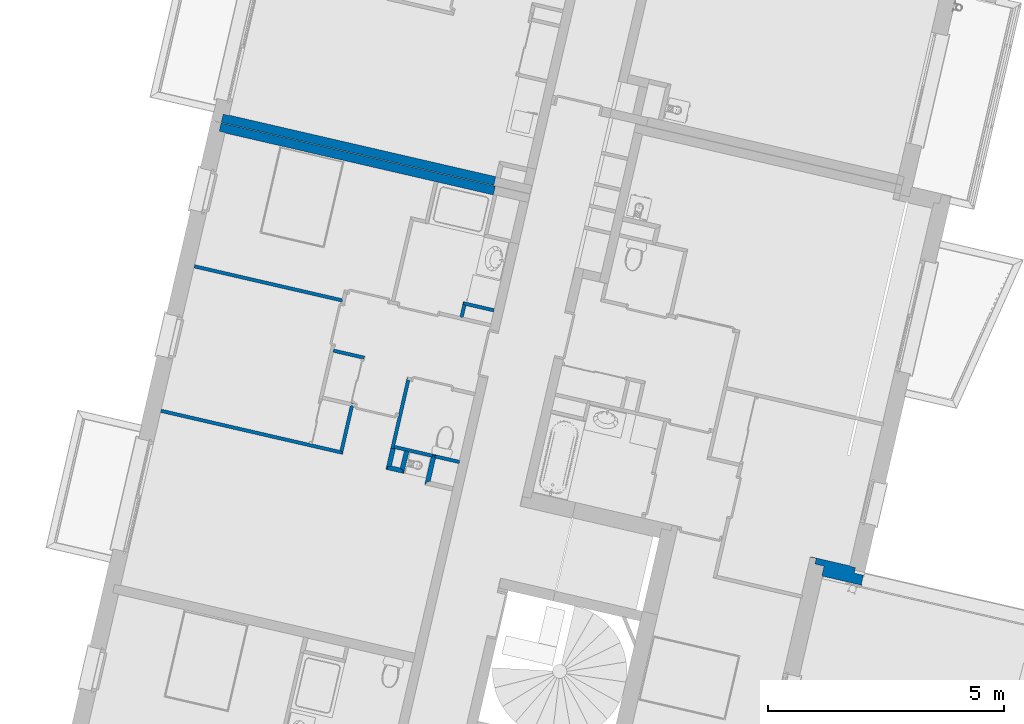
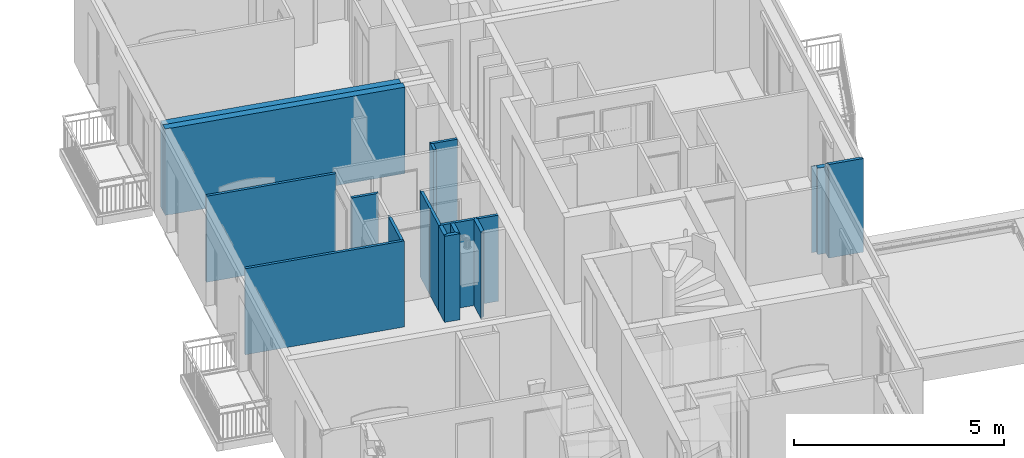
# One storey, part 48 of 90: 16 walls.
"""IFC2X3 building model written with IfcOpenShell, lengths in metres."""

from ifc_helpers import new_model, entity, si_unit, converted_unit, derived_unit, money_unit, direction, frame, origin_with_axes, place, context, subcontext, project, spatial, faceted_brep, material, material_list, type_object, element, save


model = new_model("IFC2X3")

# Units and contexts
model_context = context("Model", 3, precision=1e-05, world=origin_with_axes(), true_north=direction((0.0, 1.0)))
body_context = subcontext(model_context, "Body", "Model", "MODEL_VIEW")
ifc_project = project(units=[si_unit("LENGTHUNIT", "METRE"), si_unit("AREAUNIT", "SQUARE_METRE"), si_unit("VOLUMEUNIT", "CUBIC_METRE"), converted_unit("PLANEANGLEUNIT", "DEGREE", entity("IfcPlaneAngleMeasure", 0.0174532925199), si_unit("PLANEANGLEUNIT", "RADIAN"), dimensions=[0, 0, 0, 0, 0, 0, 0]), si_unit("SOLIDANGLEUNIT", "STERADIAN"), money_unit("EUR"), converted_unit("TIMEUNIT", "Year", entity("IfcTimeMeasure", 31556926.0), si_unit("TIMEUNIT", "SECOND"), dimensions=[0, 0, 1, 0, 0, 0, 0]), si_unit("MASSUNIT", "GRAM", prefix="KILO"), si_unit("THERMODYNAMICTEMPERATUREUNIT", "DEGREE_CELSIUS"), si_unit("LUMINOUSINTENSITYUNIT", "LUMEN"), si_unit("ENERGYUNIT", "JOULE", prefix="MEGA"), derived_unit("THERMALCONDUCTANCEUNIT", [(si_unit("POWERUNIT", "WATT"), 1), (si_unit("LENGTHUNIT", "METRE"), -1), (si_unit("THERMODYNAMICTEMPERATUREUNIT", "KELVIN"), -1)]), derived_unit("SPECIFICHEATCAPACITYUNIT", [(si_unit("ENERGYUNIT", "JOULE"), 1), (si_unit("MASSUNIT", "GRAM", prefix="KILO"), -1), (si_unit("THERMODYNAMICTEMPERATUREUNIT", "KELVIN"), -1)]), derived_unit("MASSDENSITYUNIT", [(si_unit("MASSUNIT", "GRAM", prefix="KILO"), 1), (si_unit("VOLUMEUNIT", "CUBIC_METRE"), -1)])], contexts=[model_context])

# Site, building, storey
site_placement = place(None, origin_with_axes())
site = spatial("IfcSite", under=ifc_project, at=site_placement, Name="Site", CompositionType="ELEMENT")
building_placement = place(site_placement, origin_with_axes())
building = spatial("IfcBuilding", under=site, at=building_placement, Name="Bâtiment", CompositionType="ELEMENT")
storey_placement = place(building_placement, frame((0.0, 0.0, 2.72), z_axis=(0.0, 0.0, 1.0), x_axis=(1.0, 0.0, 0.0)))
storey = spatial("IfcBuildingStorey", under=building, at=storey_placement, Name="R+1", CompositionType="ELEMENT", Elevation=2.72)

# Walls
ifc_material_1 = material(Name="Finition ext - Crépis")
ifc_material_2 = material(Name="Béton cellulaire")
ifc_material_3 = material(Name="Mortier")
ifc_material_4 = material(Name="Isolation - Polystyrène expansé")
ifc_material_5 = material(Name="Bloc ELITHERM")
ifc_material_6 = material(Name="Isolation - Polystyrène extrudé")
ifc_material_7 = material(Name="Finition int - Plaque de plâtre")
ifc_material_list_1 = material_list([ifc_material_1, ifc_material_2, ifc_material_3, ifc_material_4, ifc_material_5, ifc_material_6, ifc_material_7])
wall_type_1 = type_object("IfcWallType", Name="Mur ALKERN + planelle 21 345 x 2720", PredefinedType="USERDEFINED")
wall_1_placement = place(storey_placement, frame((-3.12464067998, -5.86018187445, 0.0), z_axis=(0.0, 0.0, 1.0), x_axis=(-0.974387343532, 0.224876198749, 0.0)))
element("IfcWall", 1, at=wall_1_placement, inside=storey, type_object=wall_type_1, material=ifc_material_list_1, Name="Mue bloc ALKERN isolé", ObjectType="SOLIDWALL", context=body_context, shape_type="Brep", body=[
    faceted_brep([(0.855808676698, -0.0149999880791, 2.72), (6.98661306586e-09, -0.0149999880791, 2.72), (6.98661306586e-09, -0.0149999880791, 0.0), (0.855808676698, -0.0149999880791, 0.0), (0.855808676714, 0.0, 2.72), (7.00355373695e-09, 0.0, 2.72), (7.00355373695e-09, 0.0, 0.0), (0.855808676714, 0.0, 0.0)], [[[0, 1, 2, 3]], [[1, 0, 4, 5]], [[5, 6, 2, 1]], [[6, 7, 3, 2]], [[7, 4, 0, 3]], [[5, 4, 7, 6]]]),
    faceted_brep([(0.0149999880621, -0.015, 2.72), (0.0149999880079, -0.0629999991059, 2.72), (0.870808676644, -0.0629999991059, 2.72), (0.870808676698, -0.015, 2.72), (0.0149999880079, -0.0629999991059, 2.51999999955), (0.0149999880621, -0.015, 2.51999999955), (0.870808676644, -0.0629999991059, 2.51999999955), (0.870808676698, -0.015, 2.51999999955)], [[[0, 1, 2, 3]], [[4, 1, 0, 5]], [[1, 4, 6, 2]], [[3, 2, 6, 7]], [[5, 0, 3, 7]], [[4, 5, 7, 6]]]),
    faceted_brep([(0.0149999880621, -0.015, 2.51999999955), (0.0149999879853, -0.083, 2.51999999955), (0.870808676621, -0.083, 2.52), (0.870808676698, -0.015, 2.52), (0.0149999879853, -0.083, 2.50999999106), (0.0149999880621, -0.015, 2.50999999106), (0.870808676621, -0.083, 2.51), (0.870808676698, -0.015, 2.51)], [[[0, 1, 2, 3]], [[4, 1, 0, 5]], [[1, 4, 6, 2]], [[3, 2, 6, 7]], [[5, 0, 3, 7]], [[4, 5, 7, 6]]]),
    faceted_brep([(0.918808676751, -0.0630000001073, 2.72), (0.0629999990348, -0.0630000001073, 2.72), (0.0629999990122, -0.083000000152, 2.72), (0.918808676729, -0.083000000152, 2.72), (0.918808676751, -0.0630000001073, 2.51999999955), (0.0629999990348, -0.0630000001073, 2.51999999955), (0.0629999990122, -0.083000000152, 2.51999999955), (0.918808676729, -0.083000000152, 2.51999999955)], [[[0, 1, 2, 3]], [[4, 5, 1, 0]], [[5, 6, 2, 1]], [[3, 2, 6, 7]], [[4, 0, 3, 7]], [[7, 6, 5, 4]]]),
    faceted_brep([(0.0149999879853, -0.0829999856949, 2.50999999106), (0.0149999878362, -0.214999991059, 2.50999999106), (0.870808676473, -0.214999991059, 2.50999999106), (0.870808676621, -0.0829999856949, 2.50999999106), (0.0149999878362, -0.214999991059, 0.0), (0.0149999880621, -0.015, 2.50999999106), (0.0149999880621, -0.015, 0.0), (0.870808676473, -0.214999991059, 0.0), (0.870808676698, -0.015, 0.0), (0.870808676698, -0.015, 2.50999999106)], [[[0, 1, 2, 3]], [[4, 1, 0, 5, 6]], [[1, 4, 7, 2]], [[3, 2, 7, 8, 9]], [[5, 0, 3, 9]], [[6, 5, 9, 8]], [[4, 6, 8, 7]]]),
    faceted_brep([(1.07080868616, -0.215000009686, 2.51), (0.214999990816, -0.215000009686, 2.50999999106), (0.214999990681, -0.335000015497, 2.50999999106), (1.07080868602, -0.335000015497, 2.51), (1.07080868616, -0.215000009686, 0.0), (0.214999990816, -0.215000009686, 0.0), (0.214999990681, -0.335000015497, 0.0), (1.07080868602, -0.335000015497, 0.0)], [[[0, 1, 2, 3]], [[4, 5, 1, 0]], [[5, 6, 2, 1]], [[3, 2, 6, 7]], [[4, 0, 3, 7]], [[7, 6, 5, 4]]]),
    faceted_brep([(1.19080869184, -0.335000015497, 2.51), (0.335000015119, -0.335000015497, 2.51), (0.335000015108, -0.34499998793, 2.51), (1.19080869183, -0.34499998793, 2.51), (1.19080869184, -0.335000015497, 0.0), (0.335000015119, -0.335000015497, 0.0), (0.335000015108, -0.34499998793, 0.0), (1.19080869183, -0.34499998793, 0.0)], [[[0, 1, 2, 3]], [[4, 5, 1, 0]], [[5, 6, 2, 1]], [[3, 2, 6, 7]], [[4, 0, 3, 7]], [[7, 6, 5, 4]]]),
])
ifc_material_8 = material(Name="Isolation - Laine de roche")
ifc_material_list_2 = material_list([ifc_material_7, ifc_material_8, ifc_material_7])
wall_type_2 = type_object("IfcWallType", Name="3 - Cloison 72mm Placostil 74", PredefinedType="USERDEFINED")
wall_2_placement = place(storey_placement, frame((-12.2584688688, -3.14533732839, 0.0), z_axis=(0.0, 0.0, 1.0), x_axis=(-0.97438734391, 0.224876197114, 0.0)))
element("IfcWall", 2, at=wall_2_placement, inside=storey, type_object=wall_type_2, material=ifc_material_list_2, Name="Cloison Placostil 72/48", ObjectType="PARTITIONING", context=body_context, shape_type="Brep", body=[
    faceted_brep([(0.567947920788, -0.013, 0.0), (0.801000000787, -0.013, 0.0), (0.801000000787, -0.013, 2.5), (0.567947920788, -0.013, 2.5), (0.568109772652, 0.0, 0.0), (0.801000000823, 2.78449263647e-10, 0.0), (0.801000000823, 2.78449263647e-10, 2.5), (0.568109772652, 0.0, 2.5)], [[[0, 1, 2, 3]], [[4, 5, 1, 0]], [[5, 6, 2, 1]], [[3, 2, 6, 7]], [[4, 0, 3, 7]], [[7, 6, 5, 4]]]),
    faceted_brep([(0.0, -0.013, 0.0), (0.493942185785, -0.013, 0.0), (0.493942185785, -0.013, 2.5), (0.0, -0.013, 2.5), (0.0, 0.0, 0.0), (0.49410403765, 0.0, 0.0), (0.49410403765, 0.0, 2.5), (0.0, 0.0, 2.5)], [[[0, 1, 2, 3]], [[4, 5, 1, 0]], [[5, 6, 2, 1]], [[3, 2, 6, 7]], [[4, 0, 3, 7]], [[7, 6, 5, 4]]]),
    faceted_brep([(-0.0260000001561, -0.061, 0.0), (0.814000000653, -0.061, 0.0), (0.814000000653, -0.061, 2.5), (-0.0260000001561, -0.061, 2.5), (-0.0260000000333, -0.013, 0.0), (0.814000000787, -0.013, 0.0), (0.814000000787, -0.013, 2.5), (-0.0260000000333, -0.013, 2.5)], [[[0, 1, 2, 3]], [[4, 5, 1, 0]], [[5, 6, 2, 1]], [[3, 2, 6, 7]], [[4, 0, 3, 7]], [[7, 6, 5, 4]]]),
    faceted_brep([(-0.0740000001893, -0.074, 0.0), (0.801000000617, -0.074, 0.0), (0.801000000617, -0.074, 2.5), (-0.0740000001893, -0.074, 2.5), (-0.0740000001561, -0.061, 0.0), (0.801000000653, -0.061, 0.0), (0.801000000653, -0.061, 2.5), (-0.0740000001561, -0.061, 2.5)], [[[0, 1, 2, 3]], [[4, 5, 1, 0]], [[5, 6, 2, 1]], [[3, 2, 6, 7]], [[4, 0, 3, 7]], [[7, 6, 5, 4]]]),
])
wall_3_placement = place(storey_placement, frame((-12.7629494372, -1.44021904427, 0.0), z_axis=(0.0, 0.0, 1.0), x_axis=(-0.224876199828, -0.974387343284, 0.0)))
element("IfcWall", 3, at=wall_3_placement, inside=storey, type_object=wall_type_2, material=ifc_material_list_2, Name="Cloison Placostil 72/48", ObjectType="PARTITIONING", context=body_context, shape_type="Brep", body=[
    faceted_brep([(1.54800000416, 0.074, 0.0), (1.53500000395, 0.074, 0.0), (1.53500000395, 0.074, 2.5), (1.54800000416, 0.074, 2.5), (1.54800000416, 0.061, 0.0), (1.53500000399, 0.061, 0.0), (1.53500000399, 0.061, 2.5), (1.54800000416, 0.061, 2.5)], [[[0, 1, 2, 3]], [[4, 5, 1, 0]], [[5, 6, 2, 1]], [[3, 2, 6, 7]], [[3, 7, 4, 0]], [[7, 6, 5, 4]]]),
    faceted_brep([(0.0740000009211, 0.061, 2.5), (1.48700000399, 0.061, 2.5), (1.48700000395, 0.074, 2.5), (0.0740000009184, 0.074, 2.5), (0.0740000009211, 0.061, 0.0), (1.48700000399, 0.061, 0.0), (1.48700000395, 0.074, 0.0), (0.0740000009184, 0.074, 0.0)], [[[0, 1, 2, 3]], [[4, 5, 1, 0]], [[5, 6, 2, 1]], [[3, 2, 6, 7]], [[3, 7, 4, 0]], [[7, 6, 5, 4]]]),
    faceted_brep([(1.54800000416, 0.013, 0.0), (0.061000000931, 0.013, 0.0), (0.0610000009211, 0.061, 0.0), (1.54800000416, 0.061, 0.0), (1.54800000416, 0.013, 2.5), (0.061000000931, 0.013, 2.5), (0.0610000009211, 0.061, 2.5), (1.54800000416, 0.061, 2.5)], [[[0, 1, 2, 3]], [[4, 5, 1, 0]], [[6, 2, 1, 5]], [[3, 2, 6, 7]], [[7, 4, 0, 3]], [[7, 6, 5, 4]]]),
    faceted_brep([(1.54800000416, 0.0, 0.0), (0.859293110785, 0.0, 0.0), (0.859293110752, 0.013, 0.0), (1.54800000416, 0.013, 0.0), (1.54800000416, 0.0, 2.5), (0.859293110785, 0.0, 2.5), (0.859293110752, 0.013, 2.5), (1.54800000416, 0.013, 2.5)], [[[0, 1, 2, 3]], [[4, 5, 1, 0]], [[6, 2, 1, 5]], [[3, 2, 6, 7]], [[7, 4, 0, 3]], [[7, 6, 5, 4]]]),
    faceted_brep([(0.0130000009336, 0.0, 0.0), (0.013000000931, 0.013, 0.0), (0.811293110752, 0.013, 0.0), (0.811293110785, 0.0, 0.0), (0.0130000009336, 0.0, 2.5), (0.013000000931, 0.013, 2.5), (0.811293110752, 0.013, 2.5), (0.811293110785, 0.0, 2.5)], [[[0, 1, 2, 3]], [[1, 0, 4, 5]], [[1, 5, 6, 2]], [[7, 3, 2, 6]], [[4, 0, 3, 7]], [[5, 4, 7, 6]]]),
])
wall_4_placement = place(storey_placement, frame((-14.1354559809, -3.08704775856, 0.0), z_axis=(0.0, 0.0, 1.0), x_axis=(0.224876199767, 0.974387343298, 0.0)))
element("IfcWall", 4, at=wall_4_placement, inside=storey, type_object=wall_type_2, material=ifc_material_list_2, Name="Cloison Placostil 72/48", ObjectType="PARTITIONING", context=body_context, shape_type="Brep", body=[
    faceted_brep([(1.04099999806, 0.074, 0.0), (1.04099999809, 0.061, 0.0), (0.0739999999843, 0.061, 0.0), (0.0739999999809, 0.074, 0.0), (1.04099999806, 0.074, 2.5), (1.04099999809, 0.061, 2.5), (0.0739999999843, 0.061, 2.5), (0.0739999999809, 0.074, 2.5)], [[[0, 1, 2, 3]], [[1, 0, 4, 5]], [[1, 5, 6, 2]], [[7, 3, 2, 6]], [[4, 0, 3, 7]], [[5, 4, 7, 6]]]),
    faceted_brep([(1.05399999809, 0.061, 0.0), (1.05399999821, 0.013, 0.0), (0.0609999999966, 0.013, 0.0), (0.0609999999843, 0.061, 0.0), (1.05399999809, 0.061, 2.5), (1.05399999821, 0.013, 2.5), (0.0609999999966, 0.013, 2.5), (0.0609999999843, 0.061, 2.5)], [[[0, 1, 2, 3]], [[1, 0, 4, 5]], [[1, 5, 6, 2]], [[7, 3, 2, 6]], [[4, 0, 3, 7]], [[5, 4, 7, 6]]]),
    faceted_brep([(1.10199999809, 0.061, 0.0), (1.11499999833, 0.061, 0.0), (1.11499999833, 0.013, 0.0), (1.10199999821, 0.013, 0.0), (1.10199999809, 0.061, 2.5), (1.11499999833, 0.061, 2.5), (1.11499999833, 0.013, 2.5), (1.10199999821, 0.013, 2.5)], [[[0, 1, 2, 3]], [[4, 5, 1, 0]], [[2, 1, 5, 6]], [[3, 2, 6, 7]], [[4, 0, 3, 7]], [[7, 6, 5, 4]]]),
    faceted_brep([(1.04099999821, 0.013, 0.0), (1.04099999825, 0.0, 0.0), (0.013, 0.0, 0.0), (0.0129999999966, 0.013, 0.0), (1.04099999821, 0.013, 2.5), (1.04099999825, 0.0, 2.5), (0.013, 0.0, 2.5), (0.0129999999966, 0.013, 2.5)], [[[0, 1, 2, 3]], [[1, 0, 4, 5]], [[1, 5, 6, 2]], [[7, 3, 2, 6]], [[4, 0, 3, 7]], [[5, 4, 7, 6]]]),
])
wall_5_placement = place(storey_placement, frame((-11.4887028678, -3.32298952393, 0.0), z_axis=(0.0, 0.0, 1.0), x_axis=(-0.97438734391, 0.224876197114, 0.0)))
element("IfcWall", 5, at=wall_5_placement, inside=storey, type_object=wall_type_2, material=ifc_material_list_2, Name="Cloison Placostil 72/48", ObjectType="PARTITIONING", context=body_context, shape_type="Brep", body=[
    faceted_brep([(0.179999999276, -0.013, 0.0), (0.689999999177, -0.013, 0.0), (0.689999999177, -0.013, 2.5), (0.179999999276, -0.013, 2.5), (0.179999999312, 0.0, 0.0), (0.68999999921, 0.0, 0.0), (0.68999999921, 0.0, 2.5), (0.179999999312, 0.0, 2.5)], [[[0, 1, 2, 3]], [[4, 5, 1, 0]], [[5, 6, 2, 1]], [[3, 2, 6, 7]], [[0, 3, 7, 4]], [[7, 6, 5, 4]]]),
    faceted_brep([(0.179999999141, -0.061, 0.0), (0.715999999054, -0.061, 0.0), (0.715999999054, -0.061, 2.5), (0.179999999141, -0.061, 2.5), (0.179999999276, -0.013, 0.0), (0.715999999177, -0.013, 0.0), (0.715999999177, -0.013, 2.5), (0.179999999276, -0.013, 2.5)], [[[0, 1, 2, 3]], [[4, 5, 1, 0]], [[5, 6, 2, 1]], [[3, 2, 6, 7]], [[0, 3, 7, 4]], [[7, 6, 5, 4]]]),
    faceted_brep([(0.179999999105, -0.074, 0.0), (0.689999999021, -0.074, 0.0), (0.689999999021, -0.074, 2.5), (0.179999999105, -0.074, 2.5), (0.179999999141, -0.061, 0.0), (0.689999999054, -0.061, 0.0), (0.689999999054, -0.061, 2.5), (0.179999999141, -0.061, 2.5)], [[[0, 1, 2, 3]], [[4, 5, 1, 0]], [[5, 6, 2, 1]], [[3, 2, 6, 7]], [[0, 3, 7, 4]], [[7, 6, 5, 4]]]),
])
wall_6_placement = place(storey_placement, frame((-13.6544457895, -1.00283323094, 0.0), z_axis=(0.0, 0.0, 1.0), x_axis=(-0.974387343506, 0.224876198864, 0.0)))
element("IfcWall", 6, at=wall_6_placement, inside=storey, type_object=wall_type_2, material=ifc_material_list_2, Name="Cloison Placostil 72/48", ObjectType="PARTITIONING", context=body_context, shape_type="Brep", body=[
    faceted_brep([(0.674000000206, 0.074, 0.0), (0.674000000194, 0.061, 0.0), (0.0610000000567, 0.061, 0.0), (0.0610000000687, 0.074, 0.0), (0.674000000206, 0.074, 2.5), (0.674000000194, 0.061, 2.5), (0.0610000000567, 0.061, 2.5), (0.0610000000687, 0.074, 2.5)], [[[0, 1, 2, 3]], [[1, 0, 4, 5]], [[1, 5, 6, 2]], [[7, 3, 2, 6]], [[4, 0, 3, 7]], [[5, 4, 7, 6]]]),
    faceted_brep([(0.687000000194, 0.061, 0.0), (0.687000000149, 0.013, 0.0), (0.0130000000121, 0.013, 0.0), (0.0130000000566, 0.061, 0.0), (0.687000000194, 0.061, 2.5), (0.687000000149, 0.013, 2.5), (0.0130000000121, 0.013, 2.5), (0.0130000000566, 0.061, 2.5)], [[[0, 1, 2, 3]], [[1, 0, 4, 5]], [[1, 5, 6, 2]], [[7, 3, 2, 6]], [[4, 0, 3, 7]], [[5, 4, 7, 6]]]),
    faceted_brep([(0.674000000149, 0.013, 0.0), (0.674000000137, 0.0, 0.0), (0.0, 0.0, 0.0), (0.0, 0.013, 0.0), (0.674000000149, 0.013, 2.5), (0.674000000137, 0.0, 2.5), (0.0, 0.0, 2.5), (0.0, 0.013, 2.5)], [[[0, 1, 2, 3]], [[1, 0, 4, 5]], [[1, 5, 6, 2]], [[7, 3, 2, 6]], [[4, 0, 3, 7]], [[5, 4, 7, 6]]]),
])
wall_7_placement = place(storey_placement, frame((-11.5724314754, 0.156328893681, 0.0), z_axis=(0.0, 0.0, 1.0), x_axis=(-0.224876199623, -0.974387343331, 0.0)))
element("IfcWall", 7, at=wall_7_placement, inside=storey, type_object=wall_type_2, material=ifc_material_list_2, Name="Cloison Placostil 72/48", ObjectType="PARTITIONING", context=body_context, shape_type="Brep", body=[
    faceted_brep([(0.324000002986, 0.074, 0.0), (0.324000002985, 0.061, 0.0), (0.0739999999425, 0.061, 0.0), (0.0739999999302, 0.074, 0.0), (0.324000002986, 0.074, 2.5), (0.324000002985, 0.061, 2.5), (0.0739999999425, 0.061, 2.5), (0.0739999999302, 0.074, 2.5)], [[[0, 1, 2, 3]], [[1, 0, 4, 5]], [[1, 5, 6, 2]], [[7, 3, 2, 6]], [[4, 0, 3, 7]], [[5, 4, 7, 6]]]),
    faceted_brep([(0.337000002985, 0.061, 0.0), (0.337000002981, 0.013, 0.0), (0.0609999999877, 0.013, 0.0), (0.0609999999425, 0.061, 0.0), (0.337000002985, 0.061, 2.5), (0.337000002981, 0.013, 2.5), (0.0609999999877, 0.013, 2.5), (0.0609999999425, 0.061, 2.5)], [[[0, 1, 2, 3]], [[1, 0, 4, 5]], [[1, 5, 6, 2]], [[7, 3, 2, 6]], [[4, 0, 3, 7]], [[5, 4, 7, 6]]]),
    faceted_brep([(0.324000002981, 0.013, 0.0), (0.324000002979, 0.0, 0.0), (0.013, 0.0, 0.0), (0.0129999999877, 0.013, 0.0), (0.324000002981, 0.013, 2.5), (0.324000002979, 0.0, 2.5), (0.013, 0.0, 2.5), (0.0129999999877, 0.013, 2.5)], [[[0, 1, 2, 3]], [[1, 0, 4, 5]], [[1, 5, 6, 2]], [[7, 3, 2, 6]], [[4, 0, 3, 7]], [[5, 4, 7, 6]]]),
])
wall_8_placement = place(storey_placement, frame((-14.1354559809, -3.08704775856, 0.0), z_axis=(0.0, 0.0, 1.0), x_axis=(-0.974387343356, 0.224876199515, 0.0)))
element("IfcWall", 8, at=wall_8_placement, inside=storey, type_object=wall_type_2, material=ifc_material_list_2, Name="Cloison Placostil 72/48", ObjectType="PARTITIONING", context=body_context, shape_type="Brep", body=[
    faceted_brep([(0.0, -0.013, 2.5), (3.95828996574, -0.013, 2.5), (3.95828996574, 0.0, 2.5), (0.0, 0.0, 2.5), (0.0, -0.013, 0.0), (3.95828996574, -0.013, 0.0), (3.95828996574, 0.0, 0.0), (0.0, 0.0, 0.0)], [[[0, 1, 2, 3]], [[4, 5, 1, 0]], [[2, 1, 5, 6]], [[3, 2, 6, 7]], [[4, 0, 3, 7]], [[7, 6, 5, 4]]]),
    faceted_brep([(0.0129999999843, -0.061, 2.5), (3.95828996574, -0.061, 2.5), (3.95828996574, -0.013, 2.5), (0.0129999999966, -0.013, 2.5), (0.0129999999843, -0.061, 0.0), (3.95828996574, -0.061, 0.0), (3.95828996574, -0.013, 0.0), (0.0129999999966, -0.013, 0.0)], [[[0, 1, 2, 3]], [[4, 5, 1, 0]], [[2, 1, 5, 6]], [[3, 2, 6, 7]], [[4, 0, 3, 7]], [[7, 6, 5, 4]]]),
    faceted_brep([(0.735000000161, -0.074, 2.5), (3.95828996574, -0.074, 2.5), (3.95828996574, -0.061, 2.5), (0.735000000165, -0.061, 2.5), (0.735000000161, -0.074, 0.0), (3.95828996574, -0.074, 0.0), (3.95828996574, -0.061, 0.0), (0.735000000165, -0.061, 0.0)], [[[0, 1, 2, 3]], [[4, 5, 1, 0]], [[2, 1, 5, 6]], [[3, 2, 6, 7]], [[4, 0, 3, 7]], [[7, 6, 5, 4]]]),
    faceted_brep([(0.687000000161, -0.074, 2.5), (0.687000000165, -0.061, 2.5), (0.0609999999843, -0.061, 2.5), (0.0609999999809, -0.074, 2.5), (0.687000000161, -0.074, 0.0), (0.687000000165, -0.061, 0.0), (0.0609999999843, -0.061, 0.0), (0.0609999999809, -0.074, 0.0)], [[[0, 1, 2, 3]], [[1, 0, 4, 5]], [[1, 5, 6, 2]], [[7, 3, 2, 6]], [[4, 0, 3, 7]], [[5, 4, 7, 6]]]),
])
wall_9_placement = place(storey_placement, frame((-14.085182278, 0.127992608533, 0.0), z_axis=(0.0, 0.0, 1.0), x_axis=(-0.974387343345, 0.224876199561, 0.0)))
element("IfcWall", 9, at=wall_9_placement, inside=storey, type_object=wall_type_2, material=ifc_material_list_2, Name="Cloison Placostil 72/48", ObjectType="PARTITIONING", context=body_context, shape_type="Brep", body=[
    faceted_brep([(0.0740000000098, -0.013, 2.5), (3.28428996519, -0.013, 2.5), (3.28428996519, 0.0, 2.5), (0.0740000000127, 0.0, 2.5), (0.0740000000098, -0.013, 0.0), (3.28428996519, -0.013, 0.0), (3.28428996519, 0.0, 0.0), (0.0740000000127, 0.0, 0.0)], [[[0, 1, 2, 3]], [[4, 5, 1, 0]], [[2, 1, 5, 6]], [[3, 2, 6, 7]], [[4, 0, 3, 7]], [[7, 6, 5, 4]]]),
    faceted_brep([(0.0609999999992, -0.061, 2.5), (3.28428996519, -0.061, 2.5), (3.28428996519, -0.013, 2.5), (0.0610000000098, -0.013, 2.5), (0.0609999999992, -0.061, 0.0), (3.28428996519, -0.061, 0.0), (3.28428996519, -0.013, 0.0), (0.0610000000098, -0.013, 0.0)], [[[0, 1, 2, 3]], [[4, 5, 1, 0]], [[2, 1, 5, 6]], [[3, 2, 6, 7]], [[4, 0, 3, 7]], [[7, 6, 5, 4]]]),
    faceted_brep([(0.0739999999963, -0.074, 2.5), (3.28428996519, -0.074, 2.5), (3.28428996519, -0.061, 2.5), (0.0739999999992, -0.061, 2.5), (0.0739999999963, -0.074, 0.0), (3.28428996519, -0.074, 0.0), (3.28428996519, -0.061, 0.0), (0.0739999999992, -0.061, 0.0)], [[[0, 1, 2, 3]], [[4, 5, 1, 0]], [[2, 1, 5, 6]], [[3, 2, 6, 7]], [[4, 0, 3, 7]], [[7, 6, 5, 4]]]),
])
wall_10_placement = place(storey_placement, frame((-10.9156944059, 0.00476233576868, 0.0), z_axis=(0.0, 0.0, 1.0), x_axis=(-0.974387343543, 0.224876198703, 0.0)))
element("IfcWall", 10, at=wall_10_placement, inside=storey, type_object=wall_type_2, material=ifc_material_list_2, Name="Cloison Placostil 72/48", ObjectType="PARTITIONING", context=body_context, shape_type="Brep", body=[
    faceted_brep([(0.613000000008, 0.074, 0.0), (0.612999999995, 0.061, 0.0), (0.0, 0.061, 0.0), (0.0, 0.074, 0.0), (0.613000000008, 0.074, 2.5), (0.612999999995, 0.061, 2.5), (0.0, 0.061, 2.5), (0.0, 0.074, 2.5)], [[[0, 1, 2, 3]], [[1, 0, 4, 5]], [[1, 5, 6, 2]], [[7, 3, 2, 6]], [[4, 0, 3, 7]], [[5, 4, 7, 6]]]),
    faceted_brep([(0.660999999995, 0.061, 0.0), (0.66099999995, 0.013, 0.0), (0.0, 0.013, 0.0), (0.0, 0.061, 0.0), (0.660999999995, 0.061, 2.5), (0.66099999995, 0.013, 2.5), (0.0, 0.013, 2.5), (0.0, 0.061, 2.5)], [[[0, 1, 2, 3]], [[1, 0, 4, 5]], [[1, 5, 6, 2]], [[7, 3, 2, 6]], [[4, 0, 3, 7]], [[5, 4, 7, 6]]]),
    faceted_brep([(0.67399999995, 0.013, 0.0), (0.673999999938, 0.0, 0.0), (0.0, 0.0, 0.0), (0.0, 0.013, 0.0), (0.67399999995, 0.013, 2.5), (0.673999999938, 0.0, 2.5), (0.0, 0.0, 2.5), (0.0, 0.013, 2.5)], [[[0, 1, 2, 3]], [[1, 0, 4, 5]], [[1, 5, 6, 2]], [[7, 3, 2, 6]], [[4, 0, 3, 7]], [[5, 4, 7, 6]]]),
])
ifc_material_9 = material(Name="Finition int - Enduit plâtre")
ifc_material_10 = material(Name="Béton")
ifc_material_list_3 = material_list([ifc_material_9, ifc_material_10])
wall_type_3 = type_object("IfcWallType", Name="2 - Murs Béton 18 + Enduit 1 Face 190", PredefinedType="USERDEFINED")
wall_11_placement = place(storey_placement, frame((-10.8945580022, 2.59994601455, 0.0), z_axis=(0.0, 0.0, 1.0), x_axis=(-0.974387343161, 0.224876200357, 0.0)))
element("IfcWall", 11, at=wall_11_placement, inside=storey, type_object=wall_type_3, material=ifc_material_list_3, Name="M_Ext-009", ObjectType="SOLIDWALL", context=body_context, shape_type="Brep", body=[
    faceted_brep([(5.8373103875, 0.18, 2.51), (0.0, 0.18, 2.51), (0.0, 0.18, 0.0), (5.8373103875, 0.18, 0.0), (0.0, 0.19, 2.51), (5.83731038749, 0.19, 2.51), (0.0, 0.19, 0.0), (5.83731038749, 0.19, 0.0)], [[[0, 1, 2, 3]], [[4, 1, 0, 5]], [[1, 4, 6, 2]], [[6, 7, 3, 2]], [[5, 0, 3, 7]], [[4, 5, 7, 6]]]),
    faceted_brep([(5.96731038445, 0.0, 2.51), (0.0, 0.0, 2.51), (0.0, 0.0, 0.0), (5.96731038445, 0.0, 0.0), (0.0, 0.18, 2.51), (5.96731038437, 0.18, 2.51), (0.0, 0.18, 0.0), (5.96731038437, 0.18, 0.0)], [[[0, 1, 2, 3]], [[4, 1, 0, 5]], [[1, 4, 6, 2]], [[6, 7, 3, 2]], [[5, 0, 3, 7]], [[4, 5, 7, 6]]]),
])
ifc_material_list_4 = material_list([ifc_material_10, ifc_material_9])
wall_12_placement = place(storey_placement, frame((-10.9283615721, 2.61801031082, 0.0), z_axis=(0.0, 0.0, 1.0), x_axis=(-0.974387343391, 0.22487619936, 0.0)))
element("IfcWall", 12, at=wall_12_placement, inside=storey, type_object=wall_type_3, material=ifc_material_list_4, Name="M_Ext-009", ObjectType="SOLIDWALL", context=body_context, shape_type="Brep", body=[
    faceted_brep([(0.0, -0.18, 0.0), (5.93031038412, -0.18, 0.0), (5.93031038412, -0.18, 2.5), (0.0, -0.18, 2.5), (0.0, 0.0, 0.0), (5.93031038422, 0.0, 0.0), (5.93031038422, 0.0, 2.5), (0.0, 0.0, 2.5)], [[[0, 1, 2, 3]], [[4, 5, 1, 0]], [[5, 6, 2, 1]], [[3, 2, 6, 7]], [[7, 4, 0, 3]], [[7, 6, 5, 4]]]),
    faceted_brep([(0.0, -0.19, 0.0), (5.80031038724, -0.19, 0.0), (5.80031038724, -0.19, 2.5), (0.0, -0.19, 2.5), (0.0, -0.18, 0.0), (5.80031038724, -0.18, 0.0), (5.80031038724, -0.18, 2.5), (0.0, -0.18, 2.5)], [[[0, 1, 2, 3]], [[4, 5, 1, 0]], [[5, 6, 2, 1]], [[3, 2, 6, 7]], [[7, 4, 0, 3]], [[7, 6, 5, 4]]]),
])
ifc_material_list_5 = material_list([ifc_material_7, ifc_material_7, ifc_material_8, ifc_material_7, ifc_material_7])
wall_type_4 = type_object("IfcWallType", Name="3 - Cloison Gaine Technique 98mm 100", PredefinedType="USERDEFINED")
wall_13_placement = place(storey_placement, frame((-13.1110577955, -2.94857065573, 0.0), z_axis=(0.0, 0.0, 1.0), x_axis=(-0.224876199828, -0.974387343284, 0.0)))
element("IfcWall", 13, at=wall_13_placement, inside=storey, type_object=wall_type_4, material=ifc_material_list_5, Name="Cloison 98 isolée", ObjectType="PARTITIONING", context=body_context, shape_type="Brep", body=[
    faceted_brep([(0.367186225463, 0.087, 0.0), (0.0, 0.087, 0.0), (0.0, 0.1, 0.0), (0.367186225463, 0.1, 0.0), (0.367186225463, 0.087, 2.5), (0.0, 0.087, 2.5), (0.0, 0.1, 2.5), (0.367186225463, 0.1, 2.5)], [[[0, 1, 2, 3]], [[4, 5, 1, 0]], [[1, 5, 6, 2]], [[3, 2, 6, 7]], [[7, 4, 0, 3]], [[7, 6, 5, 4]]]),
    faceted_brep([(0.380186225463, 0.074, 0.0), (0.0, 0.074, 0.0), (0.0, 0.087, 0.0), (0.380186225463, 0.087, 0.0), (0.380186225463, 0.074, 2.5), (0.0, 0.074, 2.5), (0.0, 0.087, 2.5), (0.380186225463, 0.087, 2.5)], [[[0, 1, 2, 3]], [[4, 5, 1, 0]], [[1, 5, 6, 2]], [[3, 2, 6, 7]], [[7, 4, 0, 3]], [[7, 6, 5, 4]]]),
    faceted_brep([(0.393186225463, 0.026, 0.0), (0.0, 0.026, 0.0), (0.0, 0.074, 0.0), (0.393186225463, 0.074, 0.0), (0.393186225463, 0.026, 2.5), (0.0, 0.026, 2.5), (0.0, 0.074, 2.5), (0.393186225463, 0.074, 2.5)], [[[0, 1, 2, 3]], [[4, 5, 1, 0]], [[1, 5, 6, 2]], [[3, 2, 6, 7]], [[7, 4, 0, 3]], [[7, 6, 5, 4]]]),
    faceted_brep([(0.0, 0.013, 0.0), (0.0, 0.026, 0.0), (0.441186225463, 0.026, 0.0), (0.441186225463, 0.013, 0.0), (0.0, 0.013, 2.5), (0.0, 0.026, 2.5), (0.441186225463, 0.026, 2.5), (0.441186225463, 0.013, 2.5)], [[[0, 1, 2, 3]], [[4, 5, 1, 0]], [[1, 5, 6, 2]], [[7, 3, 2, 6]], [[4, 0, 3, 7]], [[5, 4, 7, 6]]]),
    faceted_brep([(0.0, 0.0, 0.0), (0.0, 0.013, 0.0), (0.454186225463, 0.013, 0.0), (0.454186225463, 0.0, 0.0), (0.0, 0.0, 2.5), (0.0, 0.013, 2.5), (0.454186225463, 0.013, 2.5), (0.454186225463, 0.0, 2.5)], [[[0, 1, 2, 3]], [[4, 5, 1, 0]], [[1, 5, 6, 2]], [[7, 3, 2, 6]], [[4, 0, 3, 7]], [[5, 4, 7, 6]]]),
])
wall_14_placement = place(storey_placement, frame((-12.3933945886, -3.72996973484, 0.0), z_axis=(0.0, 0.0, 1.0), x_axis=(0.224876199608, 0.974387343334, 0.0)))
element("IfcWall", 14, at=wall_14_placement, inside=storey, type_object=wall_type_4, material=ifc_material_list_5, Name="Cloison 98 isolée", ObjectType="PARTITIONING", context=body_context, shape_type="Brep", body=[
    faceted_brep([(0.613000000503, -0.013, 2.5), (0.613000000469, 0.0, 2.5), (0.013, 0.0, 2.5), (0.0129999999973, -0.013, 2.5), (0.613000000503, -0.013, 0.0), (0.613000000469, 0.0, 0.0), (0.013, 0.0, 0.0), (0.0129999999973, -0.013, 0.0)], [[[0, 1, 2, 3]], [[1, 0, 4, 5]], [[1, 5, 6, 2]], [[7, 3, 2, 6]], [[4, 0, 3, 7]], [[5, 4, 7, 6]]]),
    faceted_brep([(0.613000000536, -0.026, 2.5), (0.613000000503, -0.013, 2.5), (0.0259999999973, -0.013, 2.5), (0.0259999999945, -0.026, 2.5), (0.613000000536, -0.026, 0.0), (0.613000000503, -0.013, 0.0), (0.0259999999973, -0.013, 0.0), (0.0259999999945, -0.026, 0.0)], [[[0, 1, 2, 3]], [[1, 0, 4, 5]], [[1, 5, 6, 2]], [[7, 3, 2, 6]], [[4, 0, 3, 7]], [[5, 4, 7, 6]]]),
    faceted_brep([(0.0739999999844, -0.074, 2.5), (0.661000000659, -0.074, 2.5), (0.661000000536, -0.026, 2.5), (0.0739999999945, -0.026, 2.5), (0.0739999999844, -0.074, 0.0), (0.661000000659, -0.074, 0.0), (0.661000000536, -0.026, 0.0), (0.0739999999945, -0.026, 0.0)], [[[0, 1, 2, 3]], [[4, 5, 1, 0]], [[6, 2, 1, 5]], [[3, 2, 6, 7]], [[7, 4, 0, 3]], [[7, 6, 5, 4]]]),
    faceted_brep([(0.0869999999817, -0.087, 0.0), (0.613000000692, -0.087, 0.0), (0.613000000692, -0.087, 2.5), (0.0869999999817, -0.087, 2.5), (0.0869999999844, -0.074, 0.0), (0.613000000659, -0.074, 0.0), (0.613000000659, -0.074, 2.5), (0.0869999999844, -0.074, 2.5)], [[[0, 1, 2, 3]], [[4, 5, 1, 0]], [[5, 6, 2, 1]], [[3, 2, 6, 7]], [[4, 0, 3, 7]], [[7, 6, 5, 4]]]),
    faceted_brep([(0.674000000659, -0.074, 2.5), (0.661000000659, -0.074, 2.5), (0.661000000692, -0.087, 2.5), (0.674000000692, -0.087, 2.5), (0.674000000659, -0.074, 0.0), (0.661000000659, -0.074, 0.0), (0.661000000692, -0.087, 0.0), (0.674000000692, -0.087, 0.0)], [[[0, 1, 2, 3]], [[4, 5, 1, 0]], [[5, 6, 2, 1]], [[3, 2, 6, 7]], [[4, 0, 3, 7]], [[7, 6, 5, 4]]]),
    faceted_brep([(0.0999999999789, -0.1, 0.0), (0.613000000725, -0.1, 0.0), (0.613000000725, -0.1, 2.5), (0.0999999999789, -0.1, 2.5), (0.0999999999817, -0.087, 0.0), (0.613000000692, -0.087, 0.0), (0.613000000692, -0.087, 2.5), (0.0999999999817, -0.087, 2.5)], [[[0, 1, 2, 3]], [[4, 5, 1, 0]], [[5, 6, 2, 1]], [[3, 2, 6, 7]], [[4, 0, 3, 7]], [[7, 6, 5, 4]]]),
    faceted_brep([(0.674000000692, -0.087, 2.5), (0.661000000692, -0.087, 2.5), (0.661000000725, -0.1, 2.5), (0.674000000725, -0.1, 2.5), (0.674000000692, -0.087, 0.0), (0.661000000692, -0.087, 0.0), (0.661000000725, -0.1, 0.0), (0.674000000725, -0.1, 0.0)], [[[0, 1, 2, 3]], [[4, 5, 1, 0]], [[5, 6, 2, 1]], [[3, 2, 6, 7]], [[4, 0, 3, 7]], [[7, 6, 5, 4]]]),
])
wall_15_placement = place(storey_placement, frame((-13.2161168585, -3.40379100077, 0.0), z_axis=(0.0, 0.0, 1.0), x_axis=(0.974387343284, -0.224876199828, 0.0)))
element("IfcWall", 15, at=wall_15_placement, inside=storey, type_object=wall_type_4, material=ifc_material_list_5, Name="Cloison 98 isolée", ObjectType="PARTITIONING", context=body_context, shape_type="Brep", body=[
    faceted_brep([(0.302318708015, 0.1, 0.0), (0.302156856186, 0.087, 0.0), (0.087, 0.087, 0.0), (0.087, 0.1, 0.0), (0.302318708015, 0.1, 2.5), (0.302156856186, 0.087, 2.5), (0.087, 0.087, 2.5), (0.087, 0.1, 2.5)], [[[0, 1, 2, 3]], [[1, 0, 4, 5]], [[1, 5, 6, 2]], [[7, 3, 2, 6]], [[4, 0, 3, 7]], [[5, 4, 7, 6]]]),
    faceted_brep([(0.315157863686, 0.087, 0.0), (0.314996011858, 0.074, 0.0), (0.074, 0.074, 0.0), (0.074, 0.087, 0.0), (0.315157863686, 0.087, 2.5), (0.314996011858, 0.074, 2.5), (0.074, 0.074, 2.5), (0.074, 0.087, 2.5)], [[[0, 1, 2, 3]], [[1, 0, 4, 5]], [[1, 5, 6, 2]], [[7, 3, 2, 6]], [[4, 0, 3, 7]], [[5, 4, 7, 6]]]),
    faceted_brep([(0.362999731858, 0.074, 0.0), (0.362402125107, 0.026, 0.0), (0.026, 0.026, 0.0), (0.026, 0.074, 0.0), (0.362999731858, 0.074, 2.5), (0.362402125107, 0.026, 2.5), (0.026, 0.026, 2.5), (0.026, 0.074, 2.5)], [[[0, 1, 2, 3]], [[1, 0, 4, 5]], [[1, 5, 6, 2]], [[7, 3, 2, 6]], [[4, 0, 3, 7]], [[5, 4, 7, 6]]]),
    faceted_brep([(0.375403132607, 0.026, 0.0), (0.375241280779, 0.013, 0.0), (0.013, 0.013, 0.0), (0.013, 0.026, 0.0), (0.375403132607, 0.026, 2.5), (0.375241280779, 0.013, 2.5), (0.013, 0.013, 2.5), (0.013, 0.026, 2.5)], [[[0, 1, 2, 3]], [[1, 0, 4, 5]], [[1, 5, 6, 2]], [[7, 3, 2, 6]], [[4, 0, 3, 7]], [[5, 4, 7, 6]]]),
    faceted_brep([(0.388242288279, 0.013, 0.0), (0.388080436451, 0.0, 0.0), (0.0, 0.0, 0.0), (0.0, 0.013, 0.0), (0.388242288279, 0.013, 2.5), (0.388080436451, 0.0, 2.5), (0.0, 0.0, 2.5), (0.0, 0.013, 2.5)], [[[0, 1, 2, 3]], [[1, 0, 4, 5]], [[1, 5, 6, 2]], [[7, 3, 2, 6]], [[4, 0, 3, 7]], [[5, 4, 7, 6]]]),
])
wall_16_placement = place(storey_placement, frame((-12.837976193, -3.49106105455, 0.0), z_axis=(0.0, 0.0, 1.0), x_axis=(0.236989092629, 0.971512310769, 0.0)))
element("IfcWall", 16, at=wall_16_placement, inside=storey, type_object=wall_type_4, material=ifc_material_list_5, Name="Cloison 98 isolée", ObjectType="PARTITIONING", context=body_context, shape_type="Brep", body=[
    faceted_brep([(0.465977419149, 0.1, 0.0), (0.466139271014, 0.087, 0.0), (0.0989245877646, 0.087, 0.0), (0.0987627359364, 0.1, 0.0), (0.465977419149, 0.1, 2.5), (0.466139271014, 0.087, 2.5), (0.0989245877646, 0.087, 2.5), (0.0987627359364, 0.1, 2.5)], [[[0, 1, 2, 3]], [[1, 0, 4, 5]], [[1, 5, 6, 2]], [[7, 3, 2, 6]], [[4, 0, 3, 7]], [[5, 4, 7, 6]]]),
    faceted_brep([(0.479140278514, 0.087, 0.0), (0.479302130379, 0.074, 0.0), (0.0860854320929, 0.074, 0.0), (0.0859235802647, 0.087, 0.0), (0.479140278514, 0.087, 2.5), (0.479302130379, 0.074, 2.5), (0.0860854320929, 0.074, 2.5), (0.0859235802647, 0.087, 2.5)], [[[0, 1, 2, 3]], [[1, 0, 4, 5]], [[1, 5, 6, 2]], [[7, 3, 2, 6]], [[4, 0, 3, 7]], [[5, 4, 7, 6]]]),
    faceted_brep([(0.479302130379, 0.074, 0.0), (0.479899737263, 0.026, 0.0), (0.0736820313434, 0.026, 0.0), (0.0730844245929, 0.074, 0.0), (0.479302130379, 0.074, 2.5), (0.479899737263, 0.026, 2.5), (0.0736820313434, 0.026, 2.5), (0.0730844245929, 0.074, 2.5)], [[[0, 1, 2, 3]], [[1, 0, 4, 5]], [[1, 5, 6, 2]], [[7, 3, 2, 6]], [[4, 0, 3, 7]], [[5, 4, 7, 6]]]),
    faceted_brep([(0.479899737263, 0.026, 0.0), (0.480061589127, 0.013, 0.0), (0.0258401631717, 0.013, 0.0), (0.0256783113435, 0.026, 0.0), (0.479899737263, 0.026, 2.5), (0.480061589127, 0.013, 2.5), (0.0258401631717, 0.013, 2.5), (0.0256783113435, 0.026, 2.5)], [[[0, 1, 2, 3]], [[1, 0, 4, 5]], [[1, 5, 6, 2]], [[7, 3, 2, 6]], [[4, 0, 3, 7]], [[5, 4, 7, 6]]]),
    faceted_brep([(0.467060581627, 0.013, 0.0), (0.467222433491, 0.0, 0.0), (0.0130010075, 0.0, 0.0), (0.0128391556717, 0.013, 0.0), (0.467060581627, 0.013, 2.5), (0.467222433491, 0.0, 2.5), (0.0130010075, 0.0, 2.5), (0.0128391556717, 0.013, 2.5)], [[[0, 1, 2, 3]], [[1, 0, 4, 5]], [[1, 5, 6, 2]], [[7, 3, 2, 6]], [[4, 0, 3, 7]], [[5, 4, 7, 6]]]),
])

save(model, "model.ifc")
